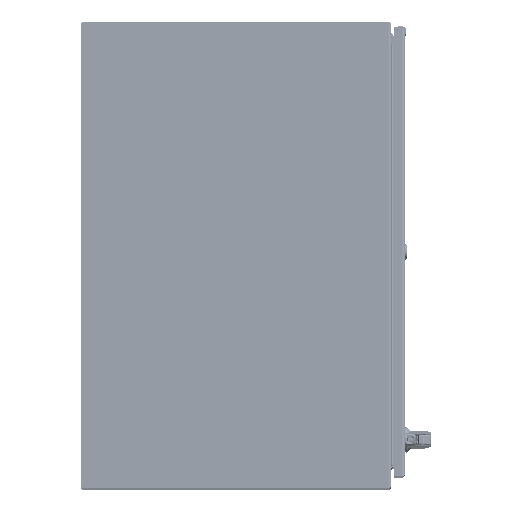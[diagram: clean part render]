
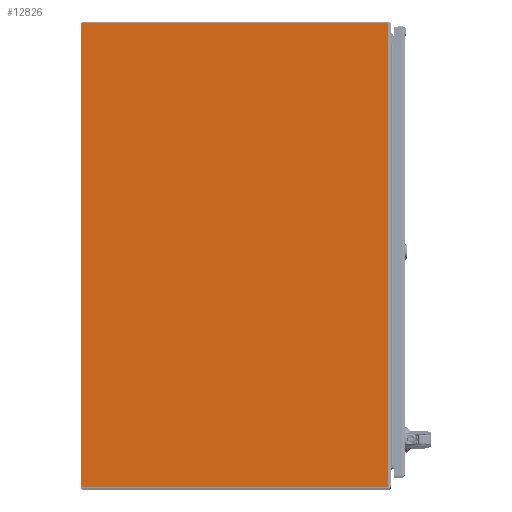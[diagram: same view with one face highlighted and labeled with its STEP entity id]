
A CAD part, top view. The second image highlights one B-rep face of the part: STEP entity #12826.
In plain terms, the highlighted planar face has unit normal (0, 0, 1) as drawn and (0, 1, 0) by its records, which use the part's own axes.
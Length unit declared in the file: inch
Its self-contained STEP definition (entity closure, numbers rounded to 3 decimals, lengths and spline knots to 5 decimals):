
#12041=CARTESIAN_POINT('',(-23.888,0.,-17.888));
#12042=DIRECTION('',(0.,1.,0.));
#12043=DIRECTION('',(0.,0.,-1.));
#12044=AXIS2_PLACEMENT_3D('',#12041,#12042,#12043);
#12049=CARTESIAN_POINT('',(-23.888,0.,17.888));
#12050=DIRECTION('',(0.,1.,0.));
#12051=DIRECTION('',(-1.,0.,0.));
#12052=AXIS2_PLACEMENT_3D('',#12049,#12050,#12051);
#12064=DIRECTION('',(0.,0.,-1.));
#12065=VECTOR('',#12064,35.776);
#12066=CARTESIAN_POINT('',(-23.948,0.,17.888));
#12067=LINE('',#12066,#12065);
#12092=DIRECTION('',(-1.,0.,0.));
#12093=VECTOR('',#12092,23.662);
#12094=CARTESIAN_POINT('',(-0.226,0.,17.948));
#12095=LINE('',#12094,#12093);
#12135=DIRECTION('',(0.,0.,1.));
#12136=VECTOR('',#12135,35.896);
#12137=CARTESIAN_POINT('',(-0.226,0.,-17.948));
#12138=LINE('',#12137,#12136);
#12243=DIRECTION('',(-1.,0.,0.));
#12244=VECTOR('',#12243,23.662);
#12245=CARTESIAN_POINT('',(-0.226,0.,-17.948));
#12246=LINE('',#12245,#12244);
#12711=CARTESIAN_POINT('',(-0.226,0.,17.948));
#12712=VERTEX_POINT('',#12711);
#12713=CARTESIAN_POINT('',(-0.226,0.,-17.948));
#12714=VERTEX_POINT('',#12713);
#12739=CARTESIAN_POINT('',(-23.888,0.,-17.948));
#12740=CARTESIAN_POINT('',(-23.948,0.,-17.888));
#12741=VERTEX_POINT('',#12739);
#12742=VERTEX_POINT('',#12740);
#12747=CARTESIAN_POINT('',(-23.948,0.,17.888));
#12748=CARTESIAN_POINT('',(-23.888,0.,17.948));
#12749=VERTEX_POINT('',#12747);
#12750=VERTEX_POINT('',#12748);
#12807=CARTESIAN_POINT('',(0.,0.,17.948));
#12808=DIRECTION('',(0.,1.,0.));
#12809=DIRECTION('',(-1.,0.,0.));
#12810=AXIS2_PLACEMENT_3D('',#12807,#12808,#12809);
#12811=PLANE('',#12810);
#12813=ORIENTED_EDGE('',*,*,#12812,.F.);
#12815=ORIENTED_EDGE('',*,*,#12814,.F.);
#12817=ORIENTED_EDGE('',*,*,#12816,.T.);
#12819=ORIENTED_EDGE('',*,*,#12818,.T.);
#12821=ORIENTED_EDGE('',*,*,#12820,.F.);
#12823=ORIENTED_EDGE('',*,*,#12822,.T.);
#12824=EDGE_LOOP('',(#12813,#12815,#12817,#12819,#12821,#12823));
#12825=FACE_OUTER_BOUND('',#12824,.F.);
#12045=CIRCLE('',#12044,0.06);
#12053=CIRCLE('',#12052,0.06);
#12812=EDGE_CURVE('',#12741,#12742,#12045,.T.);
#12814=EDGE_CURVE('',#12714,#12741,#12246,.T.);
#12816=EDGE_CURVE('',#12714,#12712,#12138,.T.);
#12818=EDGE_CURVE('',#12712,#12750,#12095,.T.);
#12820=EDGE_CURVE('',#12749,#12750,#12053,.T.);
#12822=EDGE_CURVE('',#12749,#12742,#12067,.T.);
#12826=ADVANCED_FACE('',(#12825),#12811,.T.);
